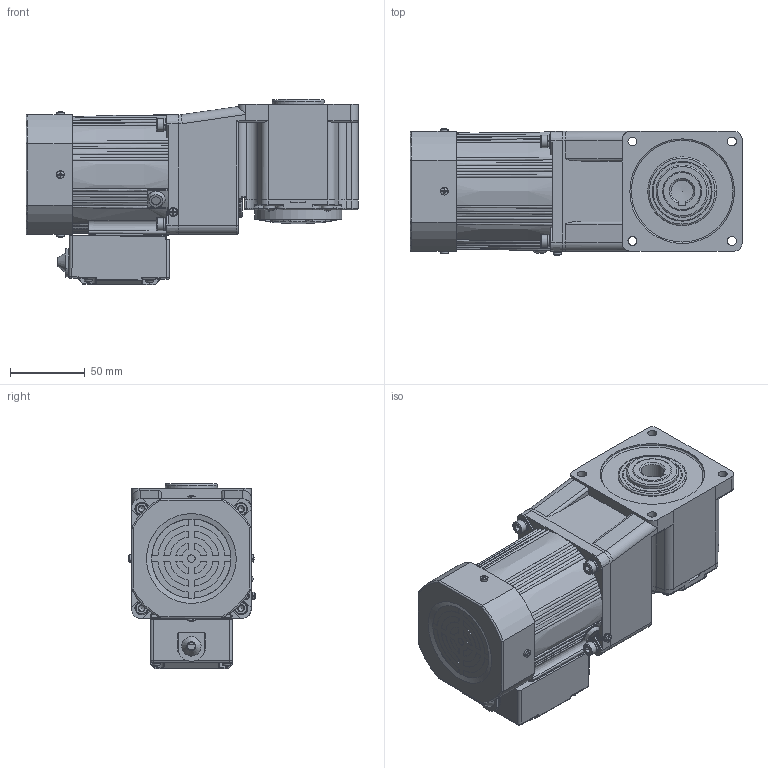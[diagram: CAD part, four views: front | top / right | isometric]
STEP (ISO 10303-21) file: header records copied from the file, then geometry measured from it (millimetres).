
FILE_DESCRIPTION(/* description */ (''),/* implementation_level */ '2;1');
FILE_NAME(/* name */ '80+中空直角-风叶-25-40W 新版标准接线盒.stp',/* time_stamp */ '2025-11-26T08:49:05+08:00',/* author */ (''),/* organization */ (''),/* preprocessor_version */ 'ST-DEVELOPER v18.102',/* originating_system */ 'SIEMENS PLM Software NX 2027',/* authorisation */ '');
FILE_SCHEMA (('AUTOMOTIVE_DESIGN { 1 0 10303 214 3 1 1 1 }'));
Products named in the file (1): 80+中空直角-风叶-25-40W 新版标准接线盒_
stp_objects
Bounding box: 222 x 84.67 x 124.34 mm (x, y, z)
Volume: 1245783.9 mm3; surface area: 165476.5 mm2
Topology: 17 solids, 17 shells, 1781 faces, 4553 edges, 2854 vertices
Faces by surface type: plane 791, cylinder 530, bspline 164, torus 141, cone 113, sphere 42
Full cylindrical faces by diameter (mm): 2.2 x2, 2.5 x2, 2.6 x1, 2.9 x4, 3.2 x1, 3.5 x4, 4.2 x5, 4.4 x1, 4.8 x1, 4.826 x4, 5 x10, 5.1 x5, 5.3 x4, 5.6 x4, 5.849 x1, 6 x12, 7 x1, 8 x5, 8.5 x4, 9 x4, 10 x2, 10.5 x1, 12 x1, 19 x1, 25 x1, 26 x3, 35 x1, 40 x2, 40.5 x1, 46 x1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
Entity records: 59617 total; most frequent: CARTESIAN_POINT 18991, ORIENTED_EDGE 8484, DIRECTION 7904, EDGE_CURVE 4242, AXIS2_PLACEMENT_3D 3020, VERTEX_POINT 2768, EDGE_LOOP 2152, LINE 1864
